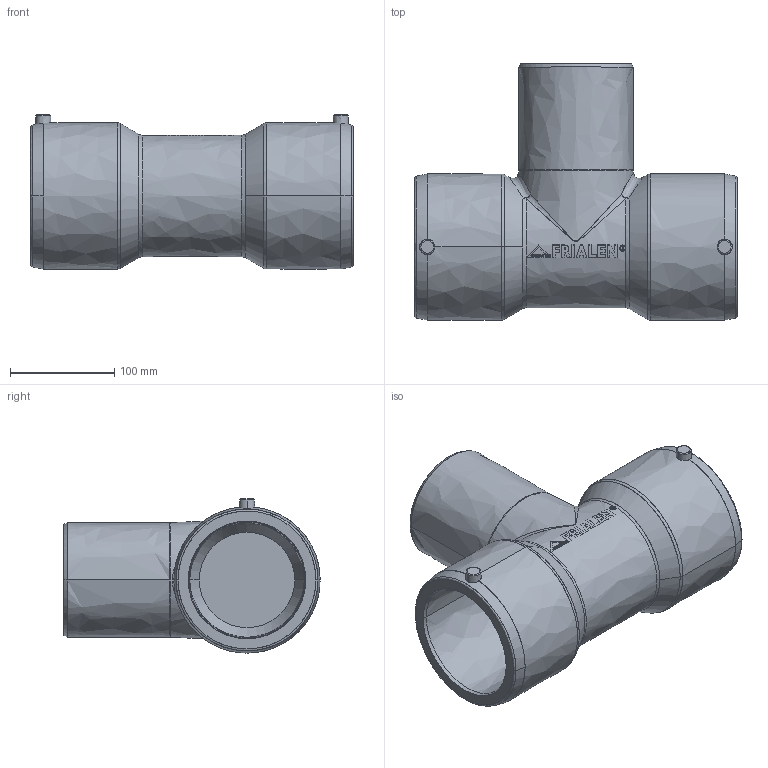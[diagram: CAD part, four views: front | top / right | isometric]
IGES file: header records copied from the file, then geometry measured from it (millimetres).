
Start section:  PTC IGES file: ta-red_d110_d110_01.igs
Global section: file name: ta-red_d110_d110_01.igs; native system: Creo Parametric by PTC Inc.; preprocessor: 2019030; author: mikulicp; organization: Unknown; date: 20210112.085627; units: millimetre
Bounding box: 310 x 246.25 x 148.12 mm (x, y, z)
Surface area: 273950.9 mm2 (no closed solid volume)
Topology: 0 solids, 0 shells, 277 faces, 1386 edges, 1386 vertices
Faces by surface type: bspline 277
